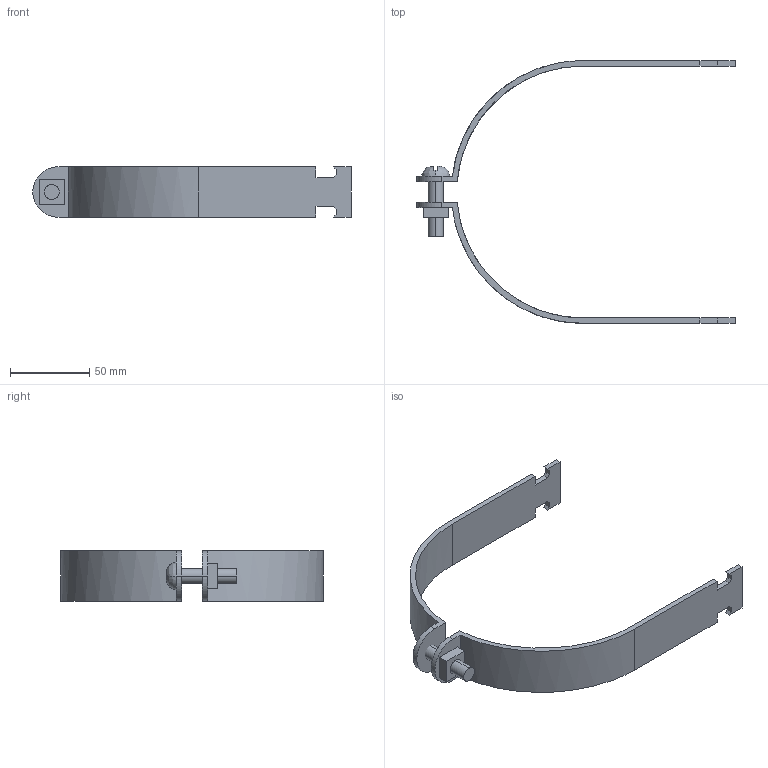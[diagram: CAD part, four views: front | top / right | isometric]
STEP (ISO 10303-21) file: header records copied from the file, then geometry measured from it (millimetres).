
FILE_DESCRIPTION(('TurboCAD Mac Pro'),'Build 980');
FILE_NAME('P2070-62.stp',' ',(''),(''),'ACIS Interop','IMSI','TurboCAD Mac Pro BY IMSI, INCORPORATED');
FILE_SCHEMA(('automotive_design'));
Length unit declared in the file: inch
Products named in the file (5): 1; 2; 3; 4; 5
Bounding box: 200.68 x 165.61 x 31.75 mm (x, y, z)
Volume: 55127.8 mm3; surface area: 35927.6 mm2
Topology: 4 solids, 4 shells, 71 faces, 186 edges, 124 vertices
Faces by surface type: plane 51, bspline 20
Entity records: 3487 total; most frequent: CARTESIAN_POINT 1050, ORIENTED_EDGE 372, DIRECTION 258, EDGE_CURVE 186, LINE 138, VECTOR 138, VERTEX_POINT 124, STYLED_ITEM 91
